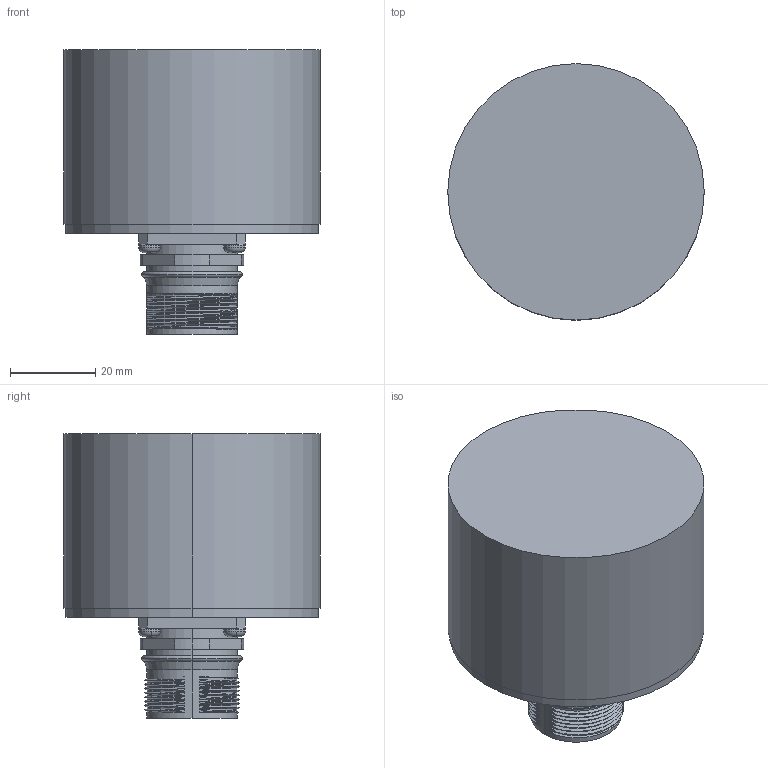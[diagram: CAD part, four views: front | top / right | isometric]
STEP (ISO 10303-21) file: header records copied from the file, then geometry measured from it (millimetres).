
FILE_DESCRIPTION (( 'STEP AP203' ), '1' );
FILE_NAME ('Drawing-OC-6-TC-432-2NM-Z1TNNN-Y-PAL-N.STEP', '2013-04-22T11:38:28', ( '' ), ( '' ), 'SwSTEP 2.0', 'SolidWorks 2006104', '' );
FILE_SCHEMA (( 'CONFIG_CONTROL_DESIGN' ));
Length unit declared in the file: millimetre
Products named in the file (1): Drawing-OC-6-TC-432-2NM-Z1TNNN-Y-PAL-N
Bounding box: 60.3 x 60.3 x 66.9 mm (x, y, z)
Volume: 32205.2 mm3; surface area: 33883.3 mm2
Topology: 13 solids, 13 shells, 1123 faces, 2837 edges, 1829 vertices
Faces by surface type: plane 338, bspline 254, cylinder 228, cone 186, torus 93, sphere 24
Entity records: 55020 total; most frequent: CARTESIAN_POINT 29590, ORIENTED_EDGE 5550, DIRECTION 4773, EDGE_CURVE 2775, AXIS2_PLACEMENT_3D 1857, VERTEX_POINT 1805, EDGE_LOOP 1280, ADVANCED_FACE 1123
